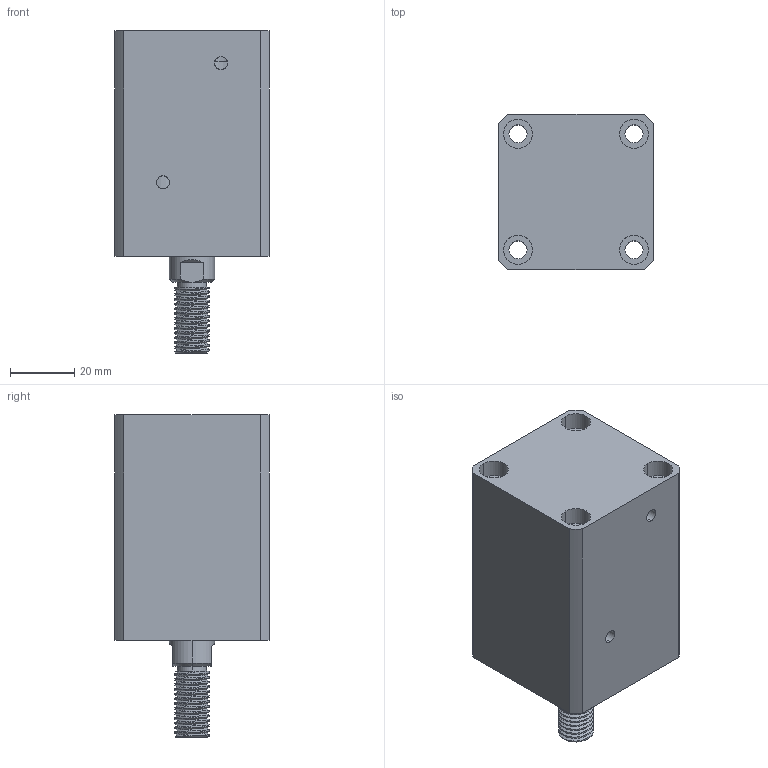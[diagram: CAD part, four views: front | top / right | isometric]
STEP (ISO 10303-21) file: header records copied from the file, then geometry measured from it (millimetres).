
FILE_DESCRIPTION (( 'STEP AP214' ), '1' );
FILE_NAME ('chtb-sdma25x25w_asm.STEP', '2018-05-22T07:33:44', ( 'Windows' ), ( 'Microsoft' ), 'SwSTEP 2.0', 'SolidWorks 2015', '' );
FILE_SCHEMA (( 'AUTOMOTIVE_DESIGN' ));
Length unit declared in the file: millimetre
Products named in the file (4): CHTB-SDMA25X25WHSG; CHTB-SDMA25X25NBT; CHTB-25QG; chtb-sdma25x25w_asm
Assembly tree (3 placements, depth 2):
  chtb-sdma25x25w_asm
    CHTB-25QG
    CHTB-SDMA25X25NBT
    CHTB-SDMA25X25WHSG
Bounding box: 48 x 48 x 100 mm (x, y, z)
Volume: 144381.9 mm3; surface area: 40076.1 mm2
Topology: 3 solids, 3 shells, 176 faces, 476 edges, 323 vertices
Faces by surface type: cylinder 118, plane 37, bspline 12, cone 9
Entity records: 10661 total; most frequent: CARTESIAN_POINT 6346, ORIENTED_EDGE 944, DIRECTION 765, EDGE_CURVE 472, VERTEX_POINT 323, AXIS2_PLACEMENT_3D 310, EDGE_LOOP 215, FACE_OUTER_BOUND 176
